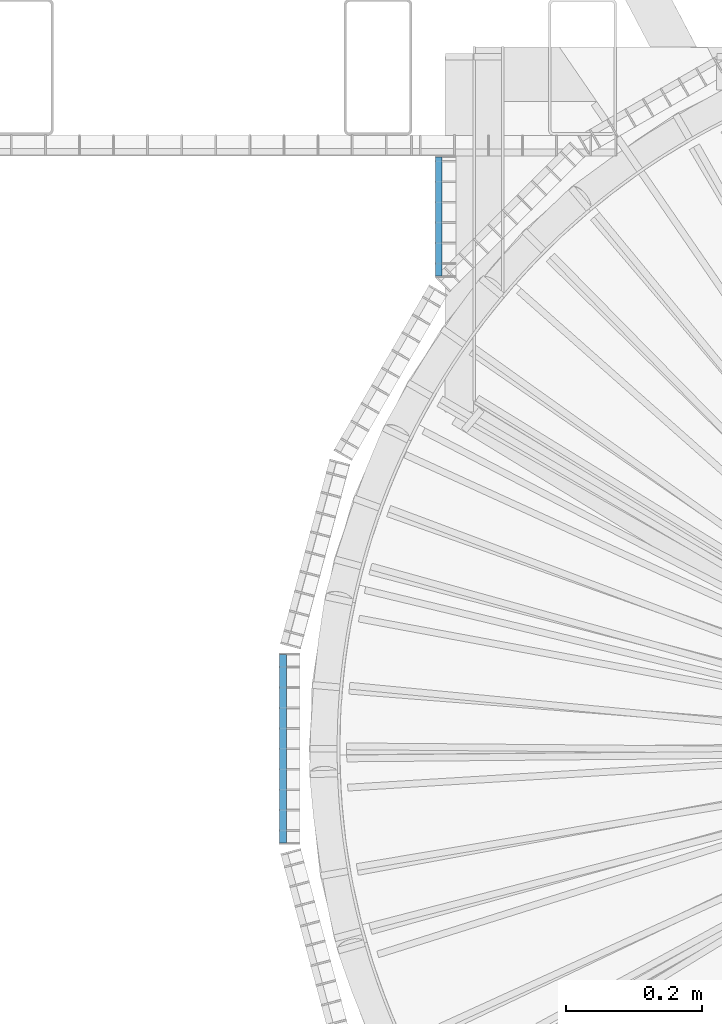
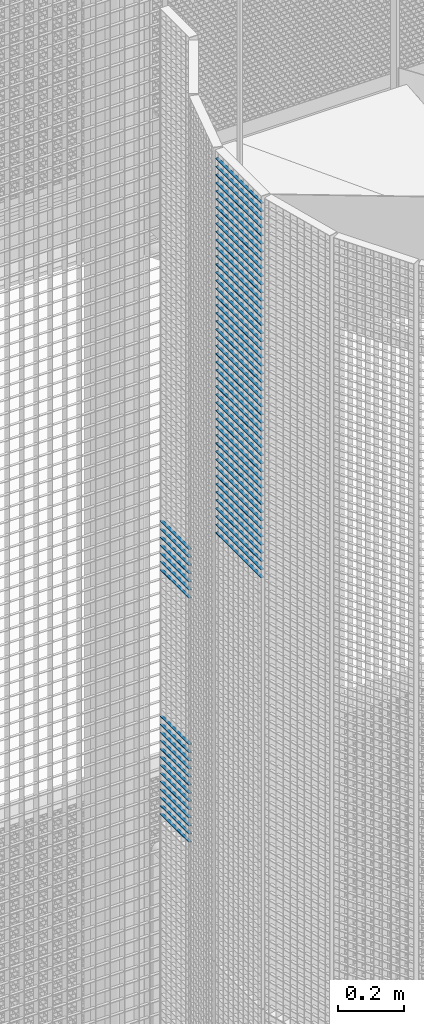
# One storey, part 188 of 1183: 67 beams, 2 elements without a shape of their own.
"""IFC2X3 building model written with IfcOpenShell, lengths in millimetres."""

import ifcopenshell
import ifcopenshell.guid

model = None  # the IFC model being written
_history = None  # IfcOwnerHistory: only IFC2X3 demands one
_inside = {}  # id of a spatial element -> (the spatial element, [elements in it])
_under = {}  # id of a project, library or spatial element -> (it, [spatial elements below it])
_declared = {}  # id of a project -> (the project, [libraries it declares])
_typed = {}  # id of a type object -> (the type object, [elements of that type])
_made_of = {}  # id of a material, layer set ... -> (it, [elements and type objects made of it])


def new_model(schema):
    """Start an empty IFC model of exactly this schema.

    Asked for "IFC4X3", IfcOpenShell would pick the latest addendum, in which some entities
    have other attributes; the version numbers below select the first issue.
    IFC2X3 requires an IfcOwnerHistory on every rooted entity: one is made here for all.
    """
    global model, _history
    if schema == "IFC4X3":
        model = ifcopenshell.file(schema_version=(4, 3, 0, 0))
    else:
        model = ifcopenshell.file(schema=schema)
    _inside.clear()
    _under.clear()
    _declared.clear()
    _typed.clear()
    _made_of.clear()
    _history = None
    if model.schema == "IFC2X3":
        org = make("IfcOrganization", Name="unknown")
        user = make(
            "IfcPersonAndOrganization",
            ThePerson=make("IfcPerson", FamilyName="unknown"),
            TheOrganization=org,
        )
        app = make(
            "IfcApplication",
            ApplicationDeveloper=org,
            Version="unknown",
            ApplicationFullName="unknown",
            ApplicationIdentifier="unknown",
        )
        _history = make(
            "IfcOwnerHistory",
            OwningUser=user,
            OwningApplication=app,
            ChangeAction="ADDED",
            CreationDate=0,
        )
    return model


def make(cls, **values):
    """One entity of the class cls with the attributes given. An attribute that is None is left unset."""
    return model.create_entity(
        cls, **{name: value for name, value in values.items() if value is not None}
    )


def rooted(cls, **values):
    """An entity with a GlobalId (a new one), such as an element, a storey or a relation."""
    return make(cls, GlobalId=ifcopenshell.guid.new(), OwnerHistory=_history, **values)


def si_unit(unit_type, name, prefix=None):
    """IfcSIUnit, for example si_unit("LENGTHUNIT", "METRE", prefix="MILLI")."""
    return make("IfcSIUnit", UnitType=unit_type, Prefix=prefix, Name=name)


def assignment(units):
    """IfcUnitAssignment: the units of a project."""
    return None if units is None else make("IfcUnitAssignment", Units=units)


def point(xyz):
    """IfcCartesianPoint."""
    return None if xyz is None else make("IfcCartesianPoint", Coordinates=xyz)


def direction(xyz):
    """IfcDirection."""
    return None if xyz is None else make("IfcDirection", DirectionRatios=xyz)


def frame(location, z_axis=None, x_axis=None):
    """IfcAxis2Placement3D, a coordinate frame: its origin and axes. An axis left out is left unset."""
    return make(
        "IfcAxis2Placement3D",
        Location=point(location),
        Axis=direction(z_axis),
        RefDirection=direction(x_axis),
    )


def frame_2d(location, x_axis=None):
    """IfcAxis2Placement2D, a coordinate frame in the plane: its origin and x axis."""
    return make(
        "IfcAxis2Placement2D", Location=point(location), RefDirection=direction(x_axis)
    )


def origin_with_axes():
    """The frame at (0, 0, 0) with the z axis (0, 0, 1) and the x axis (1, 0, 0) written out."""
    return frame((0.0, 0.0, 0.0), z_axis=(0.0, 0.0, 1.0), x_axis=(1.0, 0.0, 0.0))


def origin_2d_with_axis():
    """The frame at (0, 0) in the plane with the x axis (1, 0) written out."""
    return frame_2d((0.0, 0.0), x_axis=(1.0, 0.0))


def place(relative_to, where):
    """IfcLocalPlacement: puts the frame where relative to a parent placement (None: the world)."""
    return make(
        "IfcLocalPlacement", PlacementRelTo=relative_to, RelativePlacement=where
    )


def context(
    kind, dimensions, precision=None, world=None, true_north=None, identifier=None
):
    """IfcGeometricRepresentationContext, for example the 3D "Model" context."""
    return make(
        "IfcGeometricRepresentationContext",
        ContextIdentifier=identifier,
        ContextType=kind,
        CoordinateSpaceDimension=dimensions,
        Precision=precision,
        WorldCoordinateSystem=world,
        TrueNorth=true_north,
    )


def subcontext(parent, identifier, kind, view, scale=None):
    """IfcGeometricRepresentationSubContext, for example "Body" below "Model"."""
    return make(
        "IfcGeometricRepresentationSubContext",
        ContextIdentifier=identifier,
        ContextType=kind,
        ParentContext=parent,
        TargetScale=scale,
        TargetView=view,
    )


def project(units=None, contexts=None):
    """IfcProject with its units and contexts."""
    return rooted(
        "IfcProject",
        Name="project",
        RepresentationContexts=contexts,
        UnitsInContext=assignment(units),
    )


def spatial(cls, under=None, at=None, **own):
    """A site, building, storey or space (cls), placed at a placement, below another one or the project."""
    s = rooted(cls, ObjectPlacement=at, **own)
    if under is not None:
        _under.setdefault(under.id(), (under, []))[1].append(s)
    return s


def profile(cls, at=None, kind="AREA", **sizes):
    """A parametric profile (cls). Its sizes go by their IFC names, for example OverallWidth=200.0."""
    return make(cls, ProfileType=kind, Position=at, **sizes)


def rectangle(**sizes):
    """IfcRectangleProfileDef."""
    return profile("IfcRectangleProfileDef", **sizes)


def extrude(swept, where, along, depth):
    """IfcExtrudedAreaSolid: the profile swept, set in the frame where, extruded along a direction by depth."""
    return make(
        "IfcExtrudedAreaSolid",
        SweptArea=swept,
        Position=where,
        ExtrudedDirection=direction(along),
        Depth=depth,
    )


def shape(context_of_items, identifier, shape_type, items):
    """IfcShapeRepresentation: the items that make up one representation, for example the "Body"."""
    return make(
        "IfcShapeRepresentation",
        ContextOfItems=context_of_items,
        RepresentationIdentifier=identifier,
        RepresentationType=shape_type,
        Items=items,
    )


def material(Name=None, Category=None):
    """IfcMaterial."""
    return make("IfcMaterial", Name=Name, Category=Category)


def made_of(thing, what):
    """Note that an element or type object is made of a material, layer set ...; save() writes the relation."""
    if what is not None:
        _made_of.setdefault(what.id(), (what, []))[1].append(thing)
    return thing


def type_object(cls, material=None, **own):
    """A type object (cls), such as IfcWallType, which elements share."""
    return made_of(rooted(cls, **own), material)


def element(
    cls,
    number,
    at=None,
    inside=None,
    cuts=None,
    type_object=None,
    material=None,
    context=None,
    identifier="Body",
    shape_type=None,
    held_by="IfcProductDefinitionShape",
    body=None,
    shapes=None,
    **own,
):
    """One element of the class cls, such as IfcWall. Its Tag is "e" and its number.

    at: its placement. inside: the storey or other place that contains it. cuts: it is an
    opening in that element (IfcRelVoidsElement). A single representation is given by context,
    identifier, shape_type and body (its items); several are given by shapes. held_by: the class
    of the entity that holds the representations. save() writes the other relations.
    """
    e = rooted(cls, Tag="e%d" % number, ObjectPlacement=at, **own)
    if body is not None:
        shapes = [shape(context, identifier, shape_type, body)]
    if shapes is not None:
        e.Representation = make(held_by, Representations=shapes)
    if inside is not None:
        _inside.setdefault(inside.id(), (inside, []))[1].append(e)
    if cuts is not None:
        rooted(
            "IfcRelVoidsElement", RelatingBuildingElement=cuts, RelatedOpeningElement=e
        )
    if type_object is not None:
        _typed.setdefault(type_object.id(), (type_object, []))[1].append(e)
    return made_of(e, material)


def aggregate(whole, parts):
    """IfcRelAggregates: a whole, such as a stair, and the parts it consists of."""
    return rooted("IfcRelAggregates", RelatingObject=whole, RelatedObjects=parts)


def save(model, path):
    """Write the relations noted so far, then the file.

    IfcRelAggregates (storeys below a building ...), IfcRelContainedInSpatialStructure (elements
    in a storey), IfcRelDefinesByType, IfcRelAssociatesMaterial and IfcRelDeclares: one each for
    every whole, place, type object, material and project.
    """
    for whole, parts in _under.values():
        aggregate(whole, parts)
    for where, things in _inside.values():
        rooted(
            "IfcRelContainedInSpatialStructure",
            RelatedElements=things,
            RelatingStructure=where,
        )
    for kind, things in _typed.values():
        rooted("IfcRelDefinesByType", RelatedObjects=things, RelatingType=kind)
    for what, things in _made_of.values():
        rooted("IfcRelAssociatesMaterial", RelatedObjects=things, RelatingMaterial=what)
    for by, libraries in _declared.values():
        rooted("IfcRelDeclares", RelatingContext=by, RelatedDefinitions=libraries)
    model.write(path)


model = new_model("IFC2X3")

# Units and contexts
model_context = context("Model", 3, precision=1e-05, world=origin_with_axes())
body_context = subcontext(model_context, "Body", "Model", "MODEL_VIEW")
ifc_project = project(units=[si_unit("LENGTHUNIT", "METRE", prefix="MILLI"), si_unit("AREAUNIT", "SQUARE_METRE"), si_unit("VOLUMEUNIT", "CUBIC_METRE"), si_unit("MASSUNIT", "GRAM", prefix="KILO"), si_unit("TIMEUNIT", "SECOND"), si_unit("PLANEANGLEUNIT", "RADIAN"), si_unit("SOLIDANGLEUNIT", "STERADIAN"), si_unit("THERMODYNAMICTEMPERATUREUNIT", "DEGREE_CELSIUS"), si_unit("LUMINOUSINTENSITYUNIT", "LUMEN")], contexts=[model_context])

# Site, building, storey
site_placement = place(None, origin_with_axes())
site = spatial("IfcSite", under=ifc_project, at=site_placement, Name="Undefined", CompositionType="ELEMENT")
building_placement = place(site_placement, origin_with_axes())
building = spatial("IfcBuilding", under=site, at=building_placement, Name="Undefined", CompositionType="ELEMENT")
storey_placement = place(building_placement, origin_with_axes())
storey = spatial("IfcBuildingStorey", under=building, at=storey_placement, Name="Undefined", CompositionType="ELEMENT", Elevation=0.0)

# Assembly, beams
assembly_1_placement = place(storey_placement, origin_with_axes())
assembly_1 = element("IfcElementAssembly", 1, at=assembly_1_placement, inside=storey, Name="BORDURE", AssemblyPlace="NOTDEFINED", PredefinedType="NOTDEFINED")
ifc_material = material(Name="STEEL/S235JR")
beam_type = type_object("IfcBeamType", Name="PL2*10", PredefinedType="NOTDEFINED")
beam_1_placement = place(assembly_1_placement, frame((-884.882567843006, 867.997017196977, 15390.0), z_axis=(-1.0, 0.0, 0.0), x_axis=(0.0, -1.0, 0.0)))
beam_1 = element("IfcBeam", 2, at=beam_1_placement, type_object=beam_type, material=ifc_material, Name="ENTRETOISE", context=body_context, shape_type="SweptSolid", body=[
    extrude(rectangle(XDim=2.0, YDim=10.0, at=origin_2d_with_axis()), frame((174.109999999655, 0.0, 0.0), z_axis=(-1.0, 0.0, 0.0), x_axis=(0.0, -1.0, 0.0)), (0.0, 0.0, 1.0), 174.11),
])
beam_2_placement = place(assembly_1_placement, frame((-884.882567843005, 867.997017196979, 15930.0), z_axis=(-1.0, 0.0, 0.0), x_axis=(0.0, -1.0, 0.0)))
beam_2 = element("IfcBeam", 3, at=beam_2_placement, type_object=beam_type, material=ifc_material, Name="ENTRETOISE", context=body_context, shape_type="SweptSolid", body=[
    extrude(rectangle(XDim=2.0, YDim=10.0, at=origin_2d_with_axis()), frame((174.109999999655, 0.0, 0.0), z_axis=(-1.0, 0.0, 0.0), x_axis=(0.0, -1.0, 0.0)), (0.0, 0.0, 1.0), 174.11),
])
beam_3_placement = place(assembly_1_placement, frame((-884.882567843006, 867.997017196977, 15360.0), z_axis=(-1.0, 0.0, 0.0), x_axis=(0.0, -1.0, 0.0)))
beam_3 = element("IfcBeam", 4, at=beam_3_placement, type_object=beam_type, material=ifc_material, Name="ENTRETOISE", context=body_context, shape_type="SweptSolid", body=[
    extrude(rectangle(XDim=2.0, YDim=10.0, at=origin_2d_with_axis()), frame((174.109999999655, 0.0, 0.0), z_axis=(-1.0, 0.0, 0.0), x_axis=(0.0, -1.0, 0.0)), (0.0, 0.0, 1.0), 174.11),
])
beam_4_placement = place(assembly_1_placement, frame((-884.882567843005, 867.997017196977, 15330.0), z_axis=(-1.0, 0.0, 0.0), x_axis=(0.0, -1.0, 0.0)))
beam_4 = element("IfcBeam", 5, at=beam_4_placement, type_object=beam_type, material=ifc_material, Name="ENTRETOISE", context=body_context, shape_type="SweptSolid", body=[
    extrude(rectangle(XDim=2.0, YDim=10.0, at=origin_2d_with_axis()), frame((174.109999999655, 0.0, 0.0), z_axis=(-1.0, 0.0, 0.0), x_axis=(0.0, -1.0, 0.0)), (0.0, 0.0, 1.0), 174.11),
])
beam_5_placement = place(assembly_1_placement, frame((-884.882567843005, 867.997017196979, 15960.0), z_axis=(-1.0, 0.0, 0.0), x_axis=(0.0, -1.0, 0.0)))
beam_5 = element("IfcBeam", 6, at=beam_5_placement, type_object=beam_type, material=ifc_material, Name="ENTRETOISE", context=body_context, shape_type="SweptSolid", body=[
    extrude(rectangle(XDim=2.0, YDim=10.0, at=origin_2d_with_axis()), frame((174.109999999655, 0.0, 0.0), z_axis=(-1.0, 0.0, 0.0), x_axis=(0.0, -1.0, 0.0)), (0.0, 0.0, 1.0), 174.11),
])
beam_6_placement = place(assembly_1_placement, frame((-884.882567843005, 867.997017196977, 15300.0), z_axis=(-1.0, 0.0, 0.0), x_axis=(0.0, -1.0, 0.0)))
beam_6 = element("IfcBeam", 7, at=beam_6_placement, type_object=beam_type, material=ifc_material, Name="ENTRETOISE", context=body_context, shape_type="SweptSolid", body=[
    extrude(rectangle(XDim=2.0, YDim=10.0, at=origin_2d_with_axis()), frame((174.109999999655, 0.0, 0.0), z_axis=(-1.0, 0.0, 0.0), x_axis=(0.0, -1.0, 0.0)), (0.0, 0.0, 1.0), 174.11),
])
beam_7_placement = place(assembly_1_placement, frame((-884.882567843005, 867.997017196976, 15270.0), z_axis=(-1.0, 0.0, 0.0), x_axis=(0.0, -1.0, 0.0)))
beam_7 = element("IfcBeam", 8, at=beam_7_placement, type_object=beam_type, material=ifc_material, Name="ENTRETOISE", context=body_context, shape_type="SweptSolid", body=[
    extrude(rectangle(XDim=2.0, YDim=10.0, at=origin_2d_with_axis()), frame((174.109999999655, 0.0, 0.0), z_axis=(-1.0, 0.0, 0.0), x_axis=(0.0, -1.0, 0.0)), (0.0, 0.0, 1.0), 174.11),
])
beam_8_placement = place(assembly_1_placement, frame((-884.882567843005, 867.997017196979, 15990.0), z_axis=(-1.0, 0.0, 0.0), x_axis=(0.0, -1.0, 0.0)))
beam_8 = element("IfcBeam", 9, at=beam_8_placement, type_object=beam_type, material=ifc_material, Name="ENTRETOISE", context=body_context, shape_type="SweptSolid", body=[
    extrude(rectangle(XDim=2.0, YDim=10.0, at=origin_2d_with_axis()), frame((174.109999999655, 0.0, 0.0), z_axis=(-1.0, 0.0, 0.0), x_axis=(0.0, -1.0, 0.0)), (0.0, 0.0, 1.0), 174.11),
])
beam_9_placement = place(assembly_1_placement, frame((-884.882567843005, 867.997017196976, 15240.0), z_axis=(-1.0, 0.0, 0.0), x_axis=(0.0, -1.0, 0.0)))
beam_9 = element("IfcBeam", 10, at=beam_9_placement, type_object=beam_type, material=ifc_material, Name="ENTRETOISE", context=body_context, shape_type="SweptSolid", body=[
    extrude(rectangle(XDim=2.0, YDim=10.0, at=origin_2d_with_axis()), frame((174.109999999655, 0.0, 0.0), z_axis=(-1.0, 0.0, 0.0), x_axis=(0.0, -1.0, 0.0)), (0.0, 0.0, 1.0), 174.11),
])
beam_10_placement = place(assembly_1_placement, frame((-884.882567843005, 867.997017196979, 16020.0), z_axis=(-1.0, 0.0, 0.0), x_axis=(0.0, -1.0, 0.0)))
beam_10 = element("IfcBeam", 11, at=beam_10_placement, type_object=beam_type, material=ifc_material, Name="ENTRETOISE", context=body_context, shape_type="SweptSolid", body=[
    extrude(rectangle(XDim=2.0, YDim=10.0, at=origin_2d_with_axis()), frame((174.109999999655, 0.0, 0.0), z_axis=(-1.0, 0.0, 0.0), x_axis=(0.0, -1.0, 0.0)), (0.0, 0.0, 1.0), 174.11),
])
beam_11_placement = place(assembly_1_placement, frame((-884.882567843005, 867.997017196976, 15210.0), z_axis=(-1.0, 0.0, 0.0), x_axis=(0.0, -1.0, 0.0)))
beam_11 = element("IfcBeam", 12, at=beam_11_placement, type_object=beam_type, material=ifc_material, Name="ENTRETOISE", context=body_context, shape_type="SweptSolid", body=[
    extrude(rectangle(XDim=2.0, YDim=10.0, at=origin_2d_with_axis()), frame((174.109999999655, 0.0, 0.0), z_axis=(-1.0, 0.0, 0.0), x_axis=(0.0, -1.0, 0.0)), (0.0, 0.0, 1.0), 174.11),
])
beam_12_placement = place(assembly_1_placement, frame((-884.882567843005, 867.997017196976, 15180.0), z_axis=(-1.0, 0.0, 0.0), x_axis=(0.0, -1.0, 0.0)))
beam_12 = element("IfcBeam", 13, at=beam_12_placement, type_object=beam_type, material=ifc_material, Name="ENTRETOISE", context=body_context, shape_type="SweptSolid", body=[
    extrude(rectangle(XDim=2.0, YDim=10.0, at=origin_2d_with_axis()), frame((174.109999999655, 0.0, 0.0), z_axis=(-1.0, 0.0, 0.0), x_axis=(0.0, -1.0, 0.0)), (0.0, 0.0, 1.0), 174.11),
])
beam_13_placement = place(assembly_1_placement, frame((-884.882567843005, 867.997017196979, 16050.0), z_axis=(-1.0, 0.0, 0.0), x_axis=(0.0, -1.0, 0.0)))
beam_13 = element("IfcBeam", 14, at=beam_13_placement, type_object=beam_type, material=ifc_material, Name="ENTRETOISE", context=body_context, shape_type="SweptSolid", body=[
    extrude(rectangle(XDim=2.0, YDim=10.0, at=origin_2d_with_axis()), frame((174.109999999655, 0.0, 0.0), z_axis=(-1.0, 0.0, 0.0), x_axis=(0.0, -1.0, 0.0)), (0.0, 0.0, 1.0), 174.11),
])
beam_14_placement = place(assembly_1_placement, frame((-884.882567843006, 867.997017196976, 15150.0), z_axis=(-1.0, 0.0, 0.0), x_axis=(0.0, -1.0, 0.0)))
beam_14 = element("IfcBeam", 15, at=beam_14_placement, type_object=beam_type, material=ifc_material, Name="ENTRETOISE", context=body_context, shape_type="SweptSolid", body=[
    extrude(rectangle(XDim=2.0, YDim=10.0, at=origin_2d_with_axis()), frame((174.109999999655, 0.0, 0.0), z_axis=(-1.0, 0.0, 0.0), x_axis=(0.0, -1.0, 0.0)), (0.0, 0.0, 1.0), 174.11),
])
beam_15_placement = place(assembly_1_placement, frame((-884.882567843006, 867.997017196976, 15120.0), z_axis=(-1.0, 0.0, 0.0), x_axis=(0.0, -1.0, 0.0)))
beam_15 = element("IfcBeam", 16, at=beam_15_placement, type_object=beam_type, material=ifc_material, Name="ENTRETOISE", context=body_context, shape_type="SweptSolid", body=[
    extrude(rectangle(XDim=2.0, YDim=10.0, at=origin_2d_with_axis()), frame((174.109999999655, 0.0, 0.0), z_axis=(-1.0, 0.0, 0.0), x_axis=(0.0, -1.0, 0.0)), (0.0, 0.0, 1.0), 174.11),
])
beam_16_placement = place(assembly_1_placement, frame((-884.882567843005, 867.997017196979, 16080.0), z_axis=(-1.0, 0.0, 0.0), x_axis=(0.0, -1.0, 0.0)))
beam_16 = element("IfcBeam", 17, at=beam_16_placement, type_object=beam_type, material=ifc_material, Name="ENTRETOISE", context=body_context, shape_type="SweptSolid", body=[
    extrude(rectangle(XDim=2.0, YDim=10.0, at=origin_2d_with_axis()), frame((174.109999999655, 0.0, 0.0), z_axis=(-1.0, 0.0, 0.0), x_axis=(0.0, -1.0, 0.0)), (0.0, 0.0, 1.0), 174.11),
])
beam_17_placement = place(assembly_1_placement, frame((-884.882567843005, 867.997017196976, 15090.0), z_axis=(-1.0, 0.0, 0.0), x_axis=(0.0, -1.0, 0.0)))
beam_17 = element("IfcBeam", 18, at=beam_17_placement, type_object=beam_type, material=ifc_material, Name="ENTRETOISE", context=body_context, shape_type="SweptSolid", body=[
    extrude(rectangle(XDim=2.0, YDim=10.0, at=origin_2d_with_axis()), frame((174.109999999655, 0.0, 0.0), z_axis=(-1.0, 0.0, 0.0), x_axis=(0.0, -1.0, 0.0)), (0.0, 0.0, 1.0), 174.11),
])
beam_18_placement = place(assembly_1_placement, frame((-884.882567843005, 867.997017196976, 15060.0), z_axis=(-1.0, 0.0, 0.0), x_axis=(0.0, -1.0, 0.0)))
beam_18 = element("IfcBeam", 19, at=beam_18_placement, type_object=beam_type, material=ifc_material, Name="ENTRETOISE", context=body_context, shape_type="SweptSolid", body=[
    extrude(rectangle(XDim=2.0, YDim=10.0, at=origin_2d_with_axis()), frame((174.109999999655, 0.0, 0.0), z_axis=(-1.0, 0.0, 0.0), x_axis=(0.0, -1.0, 0.0)), (0.0, 0.0, 1.0), 174.11),
])
beam_19_placement = place(assembly_1_placement, frame((-884.882567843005, 867.99701719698, 16110.0), z_axis=(-1.0, 0.0, 0.0), x_axis=(0.0, -1.0, 0.0)))
beam_19 = element("IfcBeam", 20, at=beam_19_placement, type_object=beam_type, material=ifc_material, Name="ENTRETOISE", context=body_context, shape_type="SweptSolid", body=[
    extrude(rectangle(XDim=2.0, YDim=10.0, at=origin_2d_with_axis()), frame((174.109999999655, 0.0, 0.0), z_axis=(-1.0, 0.0, 0.0), x_axis=(0.0, -1.0, 0.0)), (0.0, 0.0, 1.0), 174.11),
])
beam_20_placement = place(assembly_1_placement, frame((-884.882567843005, 867.997017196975, 15030.0), z_axis=(-1.0, 0.0, 0.0), x_axis=(0.0, -1.0, 0.0)))
beam_20 = element("IfcBeam", 21, at=beam_20_placement, type_object=beam_type, material=ifc_material, Name="ENTRETOISE", context=body_context, shape_type="SweptSolid", body=[
    extrude(rectangle(XDim=2.0, YDim=10.0, at=origin_2d_with_axis()), frame((174.109999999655, 0.0, 0.0), z_axis=(-1.0, 0.0, 0.0), x_axis=(0.0, -1.0, 0.0)), (0.0, 0.0, 1.0), 174.11),
])
aggregate(assembly_1, [beam_1, beam_2, beam_3, beam_4, beam_5, beam_6, beam_7, beam_8, beam_9, beam_10, beam_11, beam_12, beam_13, beam_14, beam_15, beam_16, beam_17, beam_18, beam_19, beam_20])

assembly_2_placement = place(storey_placement, origin_with_axes())
assembly_2 = element("IfcElementAssembly", 22, at=assembly_2_placement, inside=storey, Name="BORDURE", AssemblyPlace="NOTDEFINED", PredefinedType="NOTDEFINED")
beam_21_placement = place(assembly_2_placement, frame((-1113.47999999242, 137.996003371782, 17970.0), z_axis=(-1.0, 0.0, 0.0), x_axis=(0.0, -1.0, 0.0)))
beam_21 = element("IfcBeam", 23, at=beam_21_placement, type_object=beam_type, material=ifc_material, Name="ENTRETOISE", context=body_context, shape_type="SweptSolid", body=[
    extrude(rectangle(XDim=2.0, YDim=10.0, at=origin_2d_with_axis()), frame((275.999999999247, 9.09494701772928e-13, 1.53210777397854e-14), z_axis=(-1.0, 0.0, 0.0), x_axis=(0.0, -1.0, 0.0)), (0.0, 0.0, 1.0), 276.0),
])
beam_22_placement = place(assembly_2_placement, frame((-1113.47999999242, 137.996003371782, 17940.0), z_axis=(-1.0, 0.0, 0.0), x_axis=(0.0, -1.0, 0.0)))
beam_22 = element("IfcBeam", 24, at=beam_22_placement, type_object=beam_type, material=ifc_material, Name="ENTRETOISE", context=body_context, shape_type="SweptSolid", body=[
    extrude(rectangle(XDim=2.0, YDim=10.0, at=origin_2d_with_axis()), frame((275.999999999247, 9.09494701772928e-13, 1.53210777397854e-14), z_axis=(-1.0, 0.0, 0.0), x_axis=(0.0, -1.0, 0.0)), (0.0, 0.0, 1.0), 276.0),
])
beam_23_placement = place(assembly_2_placement, frame((-1113.47999999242, 137.996003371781, 17910.0), z_axis=(-1.0, 0.0, 0.0), x_axis=(0.0, -1.0, 0.0)))
beam_23 = element("IfcBeam", 25, at=beam_23_placement, type_object=beam_type, material=ifc_material, Name="ENTRETOISE", context=body_context, shape_type="SweptSolid", body=[
    extrude(rectangle(XDim=2.0, YDim=10.0, at=origin_2d_with_axis()), frame((275.999999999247, 9.09494701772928e-13, 1.53210777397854e-14), z_axis=(-1.0, 0.0, 0.0), x_axis=(0.0, -1.0, 0.0)), (0.0, 0.0, 1.0), 276.0),
])
beam_24_placement = place(assembly_2_placement, frame((-1113.47999999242, 137.996003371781, 17880.0), z_axis=(-1.0, 0.0, 0.0), x_axis=(0.0, -1.0, 0.0)))
beam_24 = element("IfcBeam", 26, at=beam_24_placement, type_object=beam_type, material=ifc_material, Name="ENTRETOISE", context=body_context, shape_type="SweptSolid", body=[
    extrude(rectangle(XDim=2.0, YDim=10.0, at=origin_2d_with_axis()), frame((275.999999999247, 9.09494701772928e-13, 1.53210777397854e-14), z_axis=(-1.0, 0.0, 0.0), x_axis=(0.0, -1.0, 0.0)), (0.0, 0.0, 1.0), 276.0),
])
beam_25_placement = place(assembly_2_placement, frame((-1113.47999999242, 137.996003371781, 17850.0), z_axis=(-1.0, 0.0, 0.0), x_axis=(0.0, -1.0, 0.0)))
beam_25 = element("IfcBeam", 27, at=beam_25_placement, type_object=beam_type, material=ifc_material, Name="ENTRETOISE", context=body_context, shape_type="SweptSolid", body=[
    extrude(rectangle(XDim=2.0, YDim=10.0, at=origin_2d_with_axis()), frame((275.999999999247, 9.09494701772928e-13, 1.53210777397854e-14), z_axis=(-1.0, 0.0, 0.0), x_axis=(0.0, -1.0, 0.0)), (0.0, 0.0, 1.0), 276.0),
])
beam_26_placement = place(assembly_2_placement, frame((-1113.47999999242, 137.996003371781, 17820.0), z_axis=(-1.0, 0.0, 0.0), x_axis=(0.0, -1.0, 0.0)))
beam_26 = element("IfcBeam", 28, at=beam_26_placement, type_object=beam_type, material=ifc_material, Name="ENTRETOISE", context=body_context, shape_type="SweptSolid", body=[
    extrude(rectangle(XDim=2.0, YDim=10.0, at=origin_2d_with_axis()), frame((275.999999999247, 9.09494701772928e-13, 1.53210777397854e-14), z_axis=(-1.0, 0.0, 0.0), x_axis=(0.0, -1.0, 0.0)), (0.0, 0.0, 1.0), 276.0),
])
beam_27_placement = place(assembly_2_placement, frame((-1113.47999999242, 137.996003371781, 17790.0), z_axis=(-1.0, 0.0, 0.0), x_axis=(0.0, -1.0, 0.0)))
beam_27 = element("IfcBeam", 29, at=beam_27_placement, type_object=beam_type, material=ifc_material, Name="ENTRETOISE", context=body_context, shape_type="SweptSolid", body=[
    extrude(rectangle(XDim=2.0, YDim=10.0, at=origin_2d_with_axis()), frame((275.999999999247, 9.09494701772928e-13, 1.53210777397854e-14), z_axis=(-1.0, 0.0, 0.0), x_axis=(0.0, -1.0, 0.0)), (0.0, 0.0, 1.0), 276.0),
])
beam_28_placement = place(assembly_2_placement, frame((-1113.47999999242, 137.996003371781, 17760.0), z_axis=(-1.0, 0.0, 0.0), x_axis=(0.0, -1.0, 0.0)))
beam_28 = element("IfcBeam", 30, at=beam_28_placement, type_object=beam_type, material=ifc_material, Name="ENTRETOISE", context=body_context, shape_type="SweptSolid", body=[
    extrude(rectangle(XDim=2.0, YDim=10.0, at=origin_2d_with_axis()), frame((275.999999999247, 9.09494701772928e-13, 1.53210777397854e-14), z_axis=(-1.0, 0.0, 0.0), x_axis=(0.0, -1.0, 0.0)), (0.0, 0.0, 1.0), 276.0),
])
beam_29_placement = place(assembly_2_placement, frame((-1113.47999999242, 137.996003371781, 17730.0), z_axis=(-1.0, 0.0, 0.0), x_axis=(0.0, -1.0, 0.0)))
beam_29 = element("IfcBeam", 31, at=beam_29_placement, type_object=beam_type, material=ifc_material, Name="ENTRETOISE", context=body_context, shape_type="SweptSolid", body=[
    extrude(rectangle(XDim=2.0, YDim=10.0, at=origin_2d_with_axis()), frame((275.999999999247, 9.09494701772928e-13, 1.53210777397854e-14), z_axis=(-1.0, 0.0, 0.0), x_axis=(0.0, -1.0, 0.0)), (0.0, 0.0, 1.0), 276.0),
])
beam_30_placement = place(assembly_2_placement, frame((-1113.47999999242, 137.996003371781, 17700.0), z_axis=(-1.0, 0.0, 0.0), x_axis=(0.0, -1.0, 0.0)))
beam_30 = element("IfcBeam", 32, at=beam_30_placement, type_object=beam_type, material=ifc_material, Name="ENTRETOISE", context=body_context, shape_type="SweptSolid", body=[
    extrude(rectangle(XDim=2.0, YDim=10.0, at=origin_2d_with_axis()), frame((275.999999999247, 9.09494701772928e-13, 1.53210777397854e-14), z_axis=(-1.0, 0.0, 0.0), x_axis=(0.0, -1.0, 0.0)), (0.0, 0.0, 1.0), 276.0),
])
beam_31_placement = place(assembly_2_placement, frame((-1113.47999999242, 137.996003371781, 17670.0), z_axis=(-1.0, 0.0, 0.0), x_axis=(0.0, -1.0, 0.0)))
beam_31 = element("IfcBeam", 33, at=beam_31_placement, type_object=beam_type, material=ifc_material, Name="ENTRETOISE", context=body_context, shape_type="SweptSolid", body=[
    extrude(rectangle(XDim=2.0, YDim=10.0, at=origin_2d_with_axis()), frame((275.999999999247, 9.09494701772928e-13, 1.53210777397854e-14), z_axis=(-1.0, 0.0, 0.0), x_axis=(0.0, -1.0, 0.0)), (0.0, 0.0, 1.0), 276.0),
])
beam_32_placement = place(assembly_2_placement, frame((-1113.47999999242, 137.99600337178, 17640.0), z_axis=(-1.0, 0.0, 0.0), x_axis=(0.0, -1.0, 0.0)))
beam_32 = element("IfcBeam", 34, at=beam_32_placement, type_object=beam_type, material=ifc_material, Name="ENTRETOISE", context=body_context, shape_type="SweptSolid", body=[
    extrude(rectangle(XDim=2.0, YDim=10.0, at=origin_2d_with_axis()), frame((275.999999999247, 9.09494701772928e-13, 1.53210777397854e-14), z_axis=(-1.0, 0.0, 0.0), x_axis=(0.0, -1.0, 0.0)), (0.0, 0.0, 1.0), 276.0),
])
beam_33_placement = place(assembly_2_placement, frame((-1113.47999999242, 137.99600337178, 17610.0), z_axis=(-1.0, 0.0, 0.0), x_axis=(0.0, -1.0, 0.0)))
beam_33 = element("IfcBeam", 35, at=beam_33_placement, type_object=beam_type, material=ifc_material, Name="ENTRETOISE", context=body_context, shape_type="SweptSolid", body=[
    extrude(rectangle(XDim=2.0, YDim=10.0, at=origin_2d_with_axis()), frame((275.999999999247, 9.09494701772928e-13, 1.53210777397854e-14), z_axis=(-1.0, 0.0, 0.0), x_axis=(0.0, -1.0, 0.0)), (0.0, 0.0, 1.0), 276.0),
])
beam_34_placement = place(assembly_2_placement, frame((-1113.47999999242, 137.99600337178, 17580.0), z_axis=(-1.0, 0.0, 0.0), x_axis=(0.0, -1.0, 0.0)))
beam_34 = element("IfcBeam", 36, at=beam_34_placement, type_object=beam_type, material=ifc_material, Name="ENTRETOISE", context=body_context, shape_type="SweptSolid", body=[
    extrude(rectangle(XDim=2.0, YDim=10.0, at=origin_2d_with_axis()), frame((275.999999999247, 9.09494701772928e-13, 1.53210777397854e-14), z_axis=(-1.0, 0.0, 0.0), x_axis=(0.0, -1.0, 0.0)), (0.0, 0.0, 1.0), 276.0),
])
beam_35_placement = place(assembly_2_placement, frame((-1113.47999999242, 137.99600337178, 17550.0), z_axis=(-1.0, 0.0, 0.0), x_axis=(0.0, -1.0, 0.0)))
beam_35 = element("IfcBeam", 37, at=beam_35_placement, type_object=beam_type, material=ifc_material, Name="ENTRETOISE", context=body_context, shape_type="SweptSolid", body=[
    extrude(rectangle(XDim=2.0, YDim=10.0, at=origin_2d_with_axis()), frame((275.999999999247, 9.09494701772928e-13, 1.53210777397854e-14), z_axis=(-1.0, 0.0, 0.0), x_axis=(0.0, -1.0, 0.0)), (0.0, 0.0, 1.0), 276.0),
])
beam_36_placement = place(assembly_2_placement, frame((-1113.47999999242, 137.99600337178, 17520.0), z_axis=(-1.0, 0.0, 0.0), x_axis=(0.0, -1.0, 0.0)))
beam_36 = element("IfcBeam", 38, at=beam_36_placement, type_object=beam_type, material=ifc_material, Name="ENTRETOISE", context=body_context, shape_type="SweptSolid", body=[
    extrude(rectangle(XDim=2.0, YDim=10.0, at=origin_2d_with_axis()), frame((275.999999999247, 9.09494701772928e-13, 1.53210777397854e-14), z_axis=(-1.0, 0.0, 0.0), x_axis=(0.0, -1.0, 0.0)), (0.0, 0.0, 1.0), 276.0),
])
beam_37_placement = place(assembly_2_placement, frame((-1113.47999999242, 137.99600337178, 17490.0), z_axis=(-1.0, 0.0, 0.0), x_axis=(0.0, -1.0, 0.0)))
beam_37 = element("IfcBeam", 39, at=beam_37_placement, type_object=beam_type, material=ifc_material, Name="ENTRETOISE", context=body_context, shape_type="SweptSolid", body=[
    extrude(rectangle(XDim=2.0, YDim=10.0, at=origin_2d_with_axis()), frame((275.999999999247, 9.09494701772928e-13, 1.53210777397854e-14), z_axis=(-1.0, 0.0, 0.0), x_axis=(0.0, -1.0, 0.0)), (0.0, 0.0, 1.0), 276.0),
])
beam_38_placement = place(assembly_2_placement, frame((-1113.47999999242, 137.99600337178, 17460.0), z_axis=(-1.0, 0.0, 0.0), x_axis=(0.0, -1.0, 0.0)))
beam_38 = element("IfcBeam", 40, at=beam_38_placement, type_object=beam_type, material=ifc_material, Name="ENTRETOISE", context=body_context, shape_type="SweptSolid", body=[
    extrude(rectangle(XDim=2.0, YDim=10.0, at=origin_2d_with_axis()), frame((275.999999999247, 9.09494701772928e-13, 1.53210777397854e-14), z_axis=(-1.0, 0.0, 0.0), x_axis=(0.0, -1.0, 0.0)), (0.0, 0.0, 1.0), 276.0),
])
beam_39_placement = place(assembly_2_placement, frame((-1113.47999999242, 137.99600337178, 17430.0), z_axis=(-1.0, 0.0, 0.0), x_axis=(0.0, -1.0, 0.0)))
beam_39 = element("IfcBeam", 41, at=beam_39_placement, type_object=beam_type, material=ifc_material, Name="ENTRETOISE", context=body_context, shape_type="SweptSolid", body=[
    extrude(rectangle(XDim=2.0, YDim=10.0, at=origin_2d_with_axis()), frame((275.999999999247, 9.09494701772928e-13, 1.53210777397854e-14), z_axis=(-1.0, 0.0, 0.0), x_axis=(0.0, -1.0, 0.0)), (0.0, 0.0, 1.0), 276.0),
])
beam_40_placement = place(assembly_2_placement, frame((-1113.47999999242, 137.99600337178, 17400.0), z_axis=(-1.0, 0.0, 0.0), x_axis=(0.0, -1.0, 0.0)))
beam_40 = element("IfcBeam", 42, at=beam_40_placement, type_object=beam_type, material=ifc_material, Name="ENTRETOISE", context=body_context, shape_type="SweptSolid", body=[
    extrude(rectangle(XDim=2.0, YDim=10.0, at=origin_2d_with_axis()), frame((275.999999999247, 9.09494701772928e-13, 1.53210777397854e-14), z_axis=(-1.0, 0.0, 0.0), x_axis=(0.0, -1.0, 0.0)), (0.0, 0.0, 1.0), 276.0),
])
beam_41_placement = place(assembly_2_placement, frame((-1113.47999999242, 137.996003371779, 17370.0), z_axis=(-1.0, 0.0, 0.0), x_axis=(0.0, -1.0, 0.0)))
beam_41 = element("IfcBeam", 43, at=beam_41_placement, type_object=beam_type, material=ifc_material, Name="ENTRETOISE", context=body_context, shape_type="SweptSolid", body=[
    extrude(rectangle(XDim=2.0, YDim=10.0, at=origin_2d_with_axis()), frame((275.999999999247, 9.09494701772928e-13, 1.53210777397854e-14), z_axis=(-1.0, 0.0, 0.0), x_axis=(0.0, -1.0, 0.0)), (0.0, 0.0, 1.0), 276.0),
])
beam_42_placement = place(assembly_2_placement, frame((-1113.47999999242, 137.996003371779, 17340.0), z_axis=(-1.0, 0.0, 0.0), x_axis=(0.0, -1.0, 0.0)))
beam_42 = element("IfcBeam", 44, at=beam_42_placement, type_object=beam_type, material=ifc_material, Name="ENTRETOISE", context=body_context, shape_type="SweptSolid", body=[
    extrude(rectangle(XDim=2.0, YDim=10.0, at=origin_2d_with_axis()), frame((275.999999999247, 9.09494701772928e-13, 1.53210777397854e-14), z_axis=(-1.0, 0.0, 0.0), x_axis=(0.0, -1.0, 0.0)), (0.0, 0.0, 1.0), 276.0),
])
beam_43_placement = place(assembly_2_placement, frame((-1113.47999999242, 137.996003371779, 17310.0), z_axis=(-1.0, 0.0, 0.0), x_axis=(0.0, -1.0, 0.0)))
beam_43 = element("IfcBeam", 45, at=beam_43_placement, type_object=beam_type, material=ifc_material, Name="ENTRETOISE", context=body_context, shape_type="SweptSolid", body=[
    extrude(rectangle(XDim=2.0, YDim=10.0, at=origin_2d_with_axis()), frame((275.999999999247, 9.09494701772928e-13, 1.53210777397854e-14), z_axis=(-1.0, 0.0, 0.0), x_axis=(0.0, -1.0, 0.0)), (0.0, 0.0, 1.0), 276.0),
])
beam_44_placement = place(assembly_2_placement, frame((-1113.47999999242, 137.996003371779, 17280.0), z_axis=(-1.0, 0.0, 0.0), x_axis=(0.0, -1.0, 0.0)))
beam_44 = element("IfcBeam", 46, at=beam_44_placement, type_object=beam_type, material=ifc_material, Name="ENTRETOISE", context=body_context, shape_type="SweptSolid", body=[
    extrude(rectangle(XDim=2.0, YDim=10.0, at=origin_2d_with_axis()), frame((275.999999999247, 9.09494701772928e-13, 1.53210777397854e-14), z_axis=(-1.0, 0.0, 0.0), x_axis=(0.0, -1.0, 0.0)), (0.0, 0.0, 1.0), 276.0),
])
beam_45_placement = place(assembly_2_placement, frame((-1113.47999999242, 137.996003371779, 17250.0), z_axis=(-1.0, 0.0, 0.0), x_axis=(0.0, -1.0, 0.0)))
beam_45 = element("IfcBeam", 47, at=beam_45_placement, type_object=beam_type, material=ifc_material, Name="ENTRETOISE", context=body_context, shape_type="SweptSolid", body=[
    extrude(rectangle(XDim=2.0, YDim=10.0, at=origin_2d_with_axis()), frame((275.999999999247, 9.09494701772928e-13, 1.53210777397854e-14), z_axis=(-1.0, 0.0, 0.0), x_axis=(0.0, -1.0, 0.0)), (0.0, 0.0, 1.0), 276.0),
])
beam_46_placement = place(assembly_2_placement, frame((-1113.47999999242, 137.996003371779, 17220.0), z_axis=(-1.0, 0.0, 0.0), x_axis=(0.0, -1.0, 0.0)))
beam_46 = element("IfcBeam", 48, at=beam_46_placement, type_object=beam_type, material=ifc_material, Name="ENTRETOISE", context=body_context, shape_type="SweptSolid", body=[
    extrude(rectangle(XDim=2.0, YDim=10.0, at=origin_2d_with_axis()), frame((275.999999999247, 9.09494701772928e-13, 1.53210777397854e-14), z_axis=(-1.0, 0.0, 0.0), x_axis=(0.0, -1.0, 0.0)), (0.0, 0.0, 1.0), 276.0),
])
beam_47_placement = place(assembly_2_placement, frame((-1113.47999999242, 137.996003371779, 17190.0), z_axis=(-1.0, 0.0, 0.0), x_axis=(0.0, -1.0, 0.0)))
beam_47 = element("IfcBeam", 49, at=beam_47_placement, type_object=beam_type, material=ifc_material, Name="ENTRETOISE", context=body_context, shape_type="SweptSolid", body=[
    extrude(rectangle(XDim=2.0, YDim=10.0, at=origin_2d_with_axis()), frame((275.999999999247, 9.09494701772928e-13, 1.53210777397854e-14), z_axis=(-1.0, 0.0, 0.0), x_axis=(0.0, -1.0, 0.0)), (0.0, 0.0, 1.0), 276.0),
])
beam_48_placement = place(assembly_2_placement, frame((-1113.47999999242, 137.996003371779, 17160.0), z_axis=(-1.0, 0.0, 0.0), x_axis=(0.0, -1.0, 0.0)))
beam_48 = element("IfcBeam", 50, at=beam_48_placement, type_object=beam_type, material=ifc_material, Name="ENTRETOISE", context=body_context, shape_type="SweptSolid", body=[
    extrude(rectangle(XDim=2.0, YDim=10.0, at=origin_2d_with_axis()), frame((275.999999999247, 9.09494701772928e-13, 1.53210777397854e-14), z_axis=(-1.0, 0.0, 0.0), x_axis=(0.0, -1.0, 0.0)), (0.0, 0.0, 1.0), 276.0),
])
beam_49_placement = place(assembly_2_placement, frame((-1113.47999999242, 137.996003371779, 17130.0), z_axis=(-1.0, 0.0, 0.0), x_axis=(0.0, -1.0, 0.0)))
beam_49 = element("IfcBeam", 51, at=beam_49_placement, type_object=beam_type, material=ifc_material, Name="ENTRETOISE", context=body_context, shape_type="SweptSolid", body=[
    extrude(rectangle(XDim=2.0, YDim=10.0, at=origin_2d_with_axis()), frame((275.999999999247, 9.09494701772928e-13, 1.53210777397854e-14), z_axis=(-1.0, 0.0, 0.0), x_axis=(0.0, -1.0, 0.0)), (0.0, 0.0, 1.0), 276.0),
])
beam_50_placement = place(assembly_2_placement, frame((-1113.47999999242, 137.996003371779, 17100.0), z_axis=(-1.0, 0.0, 0.0), x_axis=(0.0, -1.0, 0.0)))
beam_50 = element("IfcBeam", 52, at=beam_50_placement, type_object=beam_type, material=ifc_material, Name="ENTRETOISE", context=body_context, shape_type="SweptSolid", body=[
    extrude(rectangle(XDim=2.0, YDim=10.0, at=origin_2d_with_axis()), frame((275.999999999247, 9.09494701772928e-13, 1.53210777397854e-14), z_axis=(-1.0, 0.0, 0.0), x_axis=(0.0, -1.0, 0.0)), (0.0, 0.0, 1.0), 276.0),
])
beam_51_placement = place(assembly_2_placement, frame((-1113.47999999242, 137.996003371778, 17070.0), z_axis=(-1.0, 0.0, 0.0), x_axis=(0.0, -1.0, 0.0)))
beam_51 = element("IfcBeam", 53, at=beam_51_placement, type_object=beam_type, material=ifc_material, Name="ENTRETOISE", context=body_context, shape_type="SweptSolid", body=[
    extrude(rectangle(XDim=2.0, YDim=10.0, at=origin_2d_with_axis()), frame((275.999999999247, 9.09494701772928e-13, 1.53210777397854e-14), z_axis=(-1.0, 0.0, 0.0), x_axis=(0.0, -1.0, 0.0)), (0.0, 0.0, 1.0), 276.0),
])
beam_52_placement = place(assembly_2_placement, frame((-1113.47999999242, 137.996003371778, 17040.0), z_axis=(-1.0, 0.0, 0.0), x_axis=(0.0, -1.0, 0.0)))
beam_52 = element("IfcBeam", 54, at=beam_52_placement, type_object=beam_type, material=ifc_material, Name="ENTRETOISE", context=body_context, shape_type="SweptSolid", body=[
    extrude(rectangle(XDim=2.0, YDim=10.0, at=origin_2d_with_axis()), frame((275.999999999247, 9.09494701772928e-13, 1.53210777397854e-14), z_axis=(-1.0, 0.0, 0.0), x_axis=(0.0, -1.0, 0.0)), (0.0, 0.0, 1.0), 276.0),
])
beam_53_placement = place(assembly_2_placement, frame((-1113.47999999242, 137.996003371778, 17010.0), z_axis=(-1.0, 0.0, 0.0), x_axis=(0.0, -1.0, 0.0)))
beam_53 = element("IfcBeam", 55, at=beam_53_placement, type_object=beam_type, material=ifc_material, Name="ENTRETOISE", context=body_context, shape_type="SweptSolid", body=[
    extrude(rectangle(XDim=2.0, YDim=10.0, at=origin_2d_with_axis()), frame((275.999999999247, 9.09494701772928e-13, 1.53210777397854e-14), z_axis=(-1.0, 0.0, 0.0), x_axis=(0.0, -1.0, 0.0)), (0.0, 0.0, 1.0), 276.0),
])
beam_54_placement = place(assembly_2_placement, frame((-1113.47999999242, 137.996003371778, 16980.0), z_axis=(-1.0, 0.0, 0.0), x_axis=(0.0, -1.0, 0.0)))
beam_54 = element("IfcBeam", 56, at=beam_54_placement, type_object=beam_type, material=ifc_material, Name="ENTRETOISE", context=body_context, shape_type="SweptSolid", body=[
    extrude(rectangle(XDim=2.0, YDim=10.0, at=origin_2d_with_axis()), frame((275.999999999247, 9.09494701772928e-13, 1.53210777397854e-14), z_axis=(-1.0, 0.0, 0.0), x_axis=(0.0, -1.0, 0.0)), (0.0, 0.0, 1.0), 276.0),
])
beam_55_placement = place(assembly_2_placement, frame((-1113.47999999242, 137.996003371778, 16950.0), z_axis=(-1.0, 0.0, 0.0), x_axis=(0.0, -1.0, 0.0)))
beam_55 = element("IfcBeam", 57, at=beam_55_placement, type_object=beam_type, material=ifc_material, Name="ENTRETOISE", context=body_context, shape_type="SweptSolid", body=[
    extrude(rectangle(XDim=2.0, YDim=10.0, at=origin_2d_with_axis()), frame((275.999999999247, 9.09494701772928e-13, 1.53210777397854e-14), z_axis=(-1.0, 0.0, 0.0), x_axis=(0.0, -1.0, 0.0)), (0.0, 0.0, 1.0), 276.0),
])
beam_56_placement = place(assembly_2_placement, frame((-1113.47999999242, 137.996003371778, 16920.0), z_axis=(-1.0, 0.0, 0.0), x_axis=(0.0, -1.0, 0.0)))
beam_56 = element("IfcBeam", 58, at=beam_56_placement, type_object=beam_type, material=ifc_material, Name="ENTRETOISE", context=body_context, shape_type="SweptSolid", body=[
    extrude(rectangle(XDim=2.0, YDim=10.0, at=origin_2d_with_axis()), frame((275.999999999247, 9.09494701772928e-13, 1.53210777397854e-14), z_axis=(-1.0, 0.0, 0.0), x_axis=(0.0, -1.0, 0.0)), (0.0, 0.0, 1.0), 276.0),
])
beam_57_placement = place(assembly_2_placement, frame((-1113.47999999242, 137.996003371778, 16890.0), z_axis=(-1.0, 0.0, 0.0), x_axis=(0.0, -1.0, 0.0)))
beam_57 = element("IfcBeam", 59, at=beam_57_placement, type_object=beam_type, material=ifc_material, Name="ENTRETOISE", context=body_context, shape_type="SweptSolid", body=[
    extrude(rectangle(XDim=2.0, YDim=10.0, at=origin_2d_with_axis()), frame((275.999999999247, 9.09494701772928e-13, 1.53210777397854e-14), z_axis=(-1.0, 0.0, 0.0), x_axis=(0.0, -1.0, 0.0)), (0.0, 0.0, 1.0), 276.0),
])
beam_58_placement = place(assembly_2_placement, frame((-1113.47999999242, 137.996003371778, 16860.0), z_axis=(-1.0, 0.0, 0.0), x_axis=(0.0, -1.0, 0.0)))
beam_58 = element("IfcBeam", 60, at=beam_58_placement, type_object=beam_type, material=ifc_material, Name="ENTRETOISE", context=body_context, shape_type="SweptSolid", body=[
    extrude(rectangle(XDim=2.0, YDim=10.0, at=origin_2d_with_axis()), frame((275.999999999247, 9.09494701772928e-13, 1.53210777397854e-14), z_axis=(-1.0, 0.0, 0.0), x_axis=(0.0, -1.0, 0.0)), (0.0, 0.0, 1.0), 276.0),
])
beam_59_placement = place(assembly_2_placement, frame((-1113.47999999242, 137.996003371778, 16830.0), z_axis=(-1.0, 0.0, 0.0), x_axis=(0.0, -1.0, 0.0)))
beam_59 = element("IfcBeam", 61, at=beam_59_placement, type_object=beam_type, material=ifc_material, Name="ENTRETOISE", context=body_context, shape_type="SweptSolid", body=[
    extrude(rectangle(XDim=2.0, YDim=10.0, at=origin_2d_with_axis()), frame((275.999999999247, 9.09494701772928e-13, 1.53210777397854e-14), z_axis=(-1.0, 0.0, 0.0), x_axis=(0.0, -1.0, 0.0)), (0.0, 0.0, 1.0), 276.0),
])
beam_60_placement = place(assembly_2_placement, frame((-1113.47999999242, 137.996003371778, 16800.0), z_axis=(-1.0, 0.0, 0.0), x_axis=(0.0, -1.0, 0.0)))
beam_60 = element("IfcBeam", 62, at=beam_60_placement, type_object=beam_type, material=ifc_material, Name="ENTRETOISE", context=body_context, shape_type="SweptSolid", body=[
    extrude(rectangle(XDim=2.0, YDim=10.0, at=origin_2d_with_axis()), frame((275.999999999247, 9.09494701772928e-13, 1.53210777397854e-14), z_axis=(-1.0, 0.0, 0.0), x_axis=(0.0, -1.0, 0.0)), (0.0, 0.0, 1.0), 276.0),
])
beam_61_placement = place(assembly_2_placement, frame((-1113.47999999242, 137.996003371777, 16770.0), z_axis=(-1.0, 0.0, 0.0), x_axis=(0.0, -1.0, 0.0)))
beam_61 = element("IfcBeam", 63, at=beam_61_placement, type_object=beam_type, material=ifc_material, Name="ENTRETOISE", context=body_context, shape_type="SweptSolid", body=[
    extrude(rectangle(XDim=2.0, YDim=10.0, at=origin_2d_with_axis()), frame((275.999999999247, 9.09494701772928e-13, 1.53210777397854e-14), z_axis=(-1.0, 0.0, 0.0), x_axis=(0.0, -1.0, 0.0)), (0.0, 0.0, 1.0), 276.0),
])
beam_62_placement = place(assembly_2_placement, frame((-1113.47999999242, 137.996003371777, 16740.0), z_axis=(-1.0, 0.0, 0.0), x_axis=(0.0, -1.0, 0.0)))
beam_62 = element("IfcBeam", 64, at=beam_62_placement, type_object=beam_type, material=ifc_material, Name="ENTRETOISE", context=body_context, shape_type="SweptSolid", body=[
    extrude(rectangle(XDim=2.0, YDim=10.0, at=origin_2d_with_axis()), frame((275.999999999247, 9.09494701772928e-13, 1.53210777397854e-14), z_axis=(-1.0, 0.0, 0.0), x_axis=(0.0, -1.0, 0.0)), (0.0, 0.0, 1.0), 276.0),
])
beam_63_placement = place(assembly_2_placement, frame((-1113.47999999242, 137.996003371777, 16710.0), z_axis=(-1.0, 0.0, 0.0), x_axis=(0.0, -1.0, 0.0)))
beam_63 = element("IfcBeam", 65, at=beam_63_placement, type_object=beam_type, material=ifc_material, Name="ENTRETOISE", context=body_context, shape_type="SweptSolid", body=[
    extrude(rectangle(XDim=2.0, YDim=10.0, at=origin_2d_with_axis()), frame((275.999999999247, 9.09494701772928e-13, 1.53210777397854e-14), z_axis=(-1.0, 0.0, 0.0), x_axis=(0.0, -1.0, 0.0)), (0.0, 0.0, 1.0), 276.0),
])
beam_64_placement = place(assembly_2_placement, frame((-1113.47999999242, 137.996003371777, 16680.0), z_axis=(-1.0, 0.0, 0.0), x_axis=(0.0, -1.0, 0.0)))
beam_64 = element("IfcBeam", 66, at=beam_64_placement, type_object=beam_type, material=ifc_material, Name="ENTRETOISE", context=body_context, shape_type="SweptSolid", body=[
    extrude(rectangle(XDim=2.0, YDim=10.0, at=origin_2d_with_axis()), frame((275.999999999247, 9.09494701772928e-13, 1.53210777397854e-14), z_axis=(-1.0, 0.0, 0.0), x_axis=(0.0, -1.0, 0.0)), (0.0, 0.0, 1.0), 276.0),
])
beam_65_placement = place(assembly_2_placement, frame((-1113.47999999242, 137.996003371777, 16650.0), z_axis=(-1.0, 0.0, 0.0), x_axis=(0.0, -1.0, 0.0)))
beam_65 = element("IfcBeam", 67, at=beam_65_placement, type_object=beam_type, material=ifc_material, Name="ENTRETOISE", context=body_context, shape_type="SweptSolid", body=[
    extrude(rectangle(XDim=2.0, YDim=10.0, at=origin_2d_with_axis()), frame((275.999999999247, 9.09494701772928e-13, 1.53210777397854e-14), z_axis=(-1.0, 0.0, 0.0), x_axis=(0.0, -1.0, 0.0)), (0.0, 0.0, 1.0), 276.0),
])
beam_66_placement = place(assembly_2_placement, frame((-1113.47999999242, 137.996003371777, 16620.0), z_axis=(-1.0, 0.0, 0.0), x_axis=(0.0, -1.0, 0.0)))
beam_66 = element("IfcBeam", 68, at=beam_66_placement, type_object=beam_type, material=ifc_material, Name="ENTRETOISE", context=body_context, shape_type="SweptSolid", body=[
    extrude(rectangle(XDim=2.0, YDim=10.0, at=origin_2d_with_axis()), frame((275.999999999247, 9.09494701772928e-13, 1.53210777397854e-14), z_axis=(-1.0, 0.0, 0.0), x_axis=(0.0, -1.0, 0.0)), (0.0, 0.0, 1.0), 276.0),
])
beam_67_placement = place(assembly_2_placement, frame((-1113.47999999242, 137.996003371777, 16590.0), z_axis=(-1.0, 0.0, 0.0), x_axis=(0.0, -1.0, 0.0)))
beam_67 = element("IfcBeam", 69, at=beam_67_placement, type_object=beam_type, material=ifc_material, Name="ENTRETOISE", context=body_context, shape_type="SweptSolid", body=[
    extrude(rectangle(XDim=2.0, YDim=10.0, at=origin_2d_with_axis()), frame((275.999999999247, 9.09494701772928e-13, 1.53210777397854e-14), z_axis=(-1.0, 0.0, 0.0), x_axis=(0.0, -1.0, 0.0)), (0.0, 0.0, 1.0), 276.0),
])
aggregate(assembly_2, [beam_21, beam_22, beam_23, beam_24, beam_25, beam_26, beam_27, beam_28, beam_29, beam_30, beam_31, beam_32, beam_33, beam_34, beam_35, beam_36, beam_37, beam_38, beam_39, beam_40, beam_41, beam_42, beam_43, beam_44, beam_45, beam_46, beam_47, beam_48, beam_49, beam_50, beam_51, beam_52, beam_53, beam_54, beam_55, beam_56, beam_57, beam_58, beam_59, beam_60, beam_61, beam_62, beam_63, beam_64, beam_65, beam_66, beam_67])

save(model, "model.ifc")
